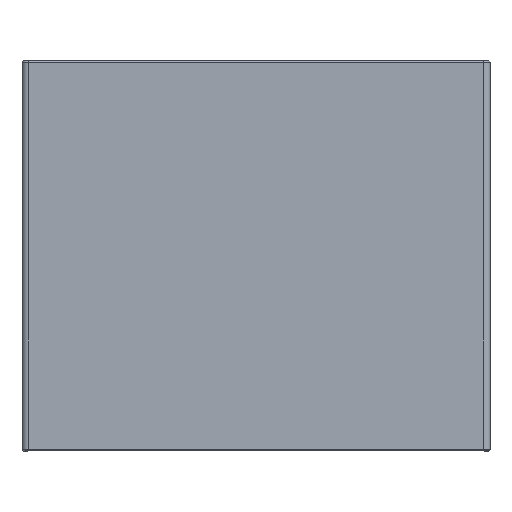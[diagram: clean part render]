
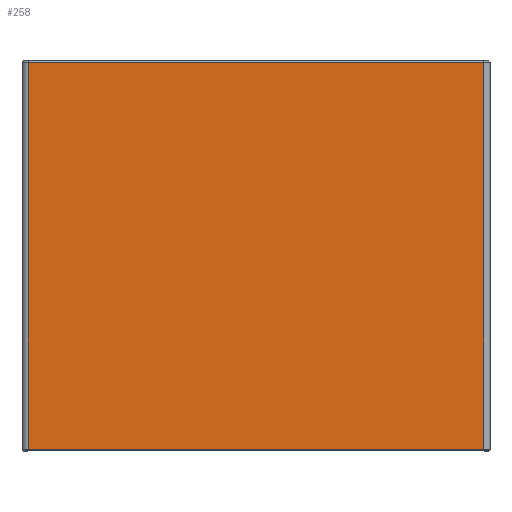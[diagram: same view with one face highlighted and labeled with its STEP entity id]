
A CAD part, top view. The second image highlights one B-rep face of the part: STEP entity #258.
In plain terms, the highlighted planar face has unit normal (0, 0, 1).
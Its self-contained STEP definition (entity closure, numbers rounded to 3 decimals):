
#64 = PLANE ( 'NONE',  #645 ) ;
#66 = DIRECTION ( 'NONE',  ( -1., 0., 0. ) ) ;
#76 = VERTEX_POINT ( 'NONE', #114 ) ;
#100 = CARTESIAN_POINT ( 'NONE',  ( -150., 249., 0. ) ) ;
#114 = CARTESIAN_POINT ( 'NONE',  ( -146., 249., 0. ) ) ;
#129 = EDGE_CURVE ( 'NONE', #141, #246, #980, .T. ) ;
#140 = DIRECTION ( 'NONE',  ( 1., 0., 0. ) ) ;
#141 = VERTEX_POINT ( 'NONE', #846 ) ;
#214 = ORIENTED_EDGE ( 'NONE', *, *, #409, .T. ) ;
#246 = VERTEX_POINT ( 'NONE', #617 ) ;
#258 = ADVANCED_FACE ( 'NONE', ( #855 ), #64, .F. ) ;
#308 = LINE ( 'NONE', #100, #593 ) ;
#342 = LINE ( 'NONE', #853, #880 ) ;
#409 = EDGE_CURVE ( 'NONE', #246, #76, #308, .T. ) ;
#413 = EDGE_LOOP ( 'NONE', ( #1008, #436, #1037, #214 ) ) ;
#420 = LINE ( 'NONE', #529, #768 ) ;
#436 = ORIENTED_EDGE ( 'NONE', *, *, #673, .T. ) ;
#461 = DIRECTION ( 'NONE',  ( 0., 1., 0. ) ) ;
#474 = VECTOR ( 'NONE', #461, 1000. ) ;
#529 = CARTESIAN_POINT ( 'NONE',  ( 146., 1., 0. ) ) ;
#576 = EDGE_CURVE ( 'NONE', #76, #896, #342, .T. ) ;
#593 = VECTOR ( 'NONE', #901, 1000. ) ;
#611 = CARTESIAN_POINT ( 'NONE',  ( 146., 250., 0. ) ) ;
#617 = CARTESIAN_POINT ( 'NONE',  ( 146., 249., 0. ) ) ;
#641 = CARTESIAN_POINT ( 'NONE',  ( -150., 250., 0. ) ) ;
#645 = AXIS2_PLACEMENT_3D ( 'NONE', #641, #795, #66 ) ;
#673 = EDGE_CURVE ( 'NONE', #896, #141, #420, .T. ) ;
#768 = VECTOR ( 'NONE', #140, 1000. ) ;
#795 = DIRECTION ( 'NONE',  ( 0., 0., -1. ) ) ;
#846 = CARTESIAN_POINT ( 'NONE',  ( 146., 1., 0. ) ) ;
#853 = CARTESIAN_POINT ( 'NONE',  ( -146., 250., 0. ) ) ;
#855 = FACE_OUTER_BOUND ( 'NONE', #413, .T. ) ;
#880 = VECTOR ( 'NONE', #935, 1000. ) ;
#890 = CARTESIAN_POINT ( 'NONE',  ( -146., 1., 0. ) ) ;
#896 = VERTEX_POINT ( 'NONE', #890 ) ;
#901 = DIRECTION ( 'NONE',  ( -1., 0., 0. ) ) ;
#935 = DIRECTION ( 'NONE',  ( 0., -1., 0. ) ) ;
#980 = LINE ( 'NONE', #611, #474 ) ;
#1008 = ORIENTED_EDGE ( 'NONE', *, *, #576, .T. ) ;
#1037 = ORIENTED_EDGE ( 'NONE', *, *, #129, .T. ) ;
